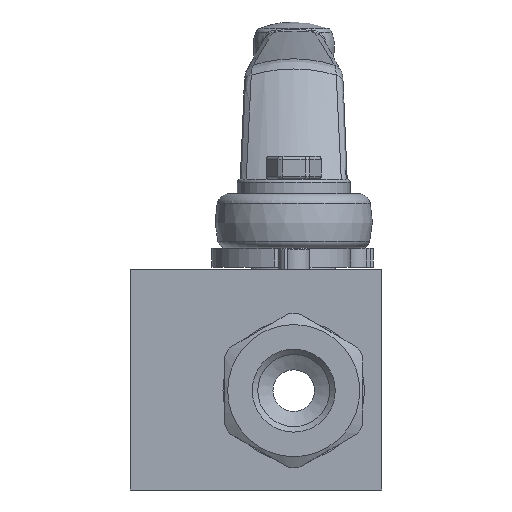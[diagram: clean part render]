
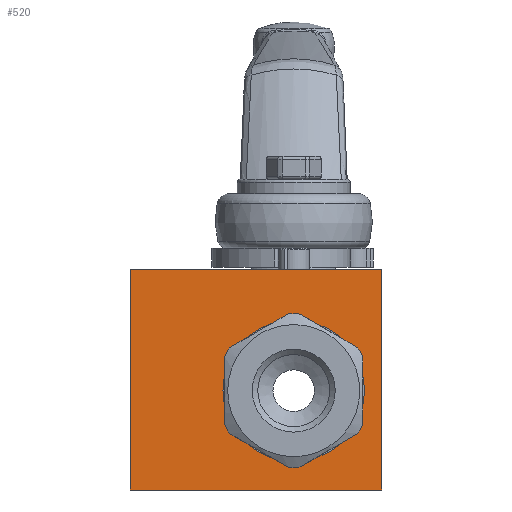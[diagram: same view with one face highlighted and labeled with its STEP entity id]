
A CAD part, front view. The second image highlights one B-rep face of the part: STEP entity #520.
In plain terms, the highlighted planar face has unit normal (0, -1, 0).
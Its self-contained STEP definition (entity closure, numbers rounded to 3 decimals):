
#520 = ADVANCED_FACE( '', ( #1230, #1231 ), #1232, .T. );
#1230 = FACE_BOUND( '', #2303, .T. );
#1231 = FACE_OUTER_BOUND( '', #2304, .T. );
#1232 = PLANE( '', #2305 );
#2303 = EDGE_LOOP( '', ( #4326 ) );
#2304 = EDGE_LOOP( '', ( #4327, #4328, #4329, #4330 ) );
#2305 = AXIS2_PLACEMENT_3D( '', #4331, #4332, #4333 );
#4326 = ORIENTED_EDGE( '', *, *, #6949, .F. );
#4327 = ORIENTED_EDGE( '', *, *, #6950, .T. );
#4328 = ORIENTED_EDGE( '', *, *, #6951, .T. );
#4329 = ORIENTED_EDGE( '', *, *, #6952, .T. );
#4330 = ORIENTED_EDGE( '', *, *, #6953, .T. );
#4331 = CARTESIAN_POINT( '', ( -26., -17.5, -15.8 ) );
#4332 = DIRECTION( '', ( 0., -1., 0. ) );
#4333 = DIRECTION( '', ( 0., 0., -1. ) );
#6949 = EDGE_CURVE( '', #8000, #8000, #8001, .T. );
#6950 = EDGE_CURVE( '', #8002, #8003, #8004, .T. );
#6951 = EDGE_CURVE( '', #8003, #8005, #8006, .T. );
#6952 = EDGE_CURVE( '', #8005, #8007, #8008, .T. );
#6953 = EDGE_CURVE( '', #8007, #8002, #8009, .T. );
#8000 = VERTEX_POINT( '', #9573 );
#8001 = CIRCLE( '', #9574, 11.25 );
#8002 = VERTEX_POINT( '', #9575 );
#8003 = VERTEX_POINT( '', #9576 );
#8004 = LINE( '', #9577, #9578 );
#8005 = VERTEX_POINT( '', #9579 );
#8006 = LINE( '', #9580, #9581 );
#8007 = VERTEX_POINT( '', #9582 );
#8008 = LINE( '', #9583, #9584 );
#8009 = LINE( '', #9585, #9586 );
#9573 = CARTESIAN_POINT( '', ( 11.25, -17.5, 0. ) );
#9574 = AXIS2_PLACEMENT_3D( '', #12856, #12857, #12858 );
#9575 = CARTESIAN_POINT( '', ( -26., -17.5, 19.2 ) );
#9576 = CARTESIAN_POINT( '', ( -26., -17.5, -15.8 ) );
#9577 = CARTESIAN_POINT( '', ( -26., -17.5, 19.2 ) );
#9578 = VECTOR( '', #12859, 1000. );
#9579 = CARTESIAN_POINT( '', ( 14., -17.5, -15.8 ) );
#9580 = CARTESIAN_POINT( '', ( -26., -17.5, -15.8 ) );
#9581 = VECTOR( '', #12860, 1000. );
#9582 = CARTESIAN_POINT( '', ( 14., -17.5, 19.2 ) );
#9583 = CARTESIAN_POINT( '', ( 14., -17.5, -15.8 ) );
#9584 = VECTOR( '', #12861, 1000. );
#9585 = CARTESIAN_POINT( '', ( 14., -17.5, 19.2 ) );
#9586 = VECTOR( '', #12862, 1000. );
#12856 = CARTESIAN_POINT( '', ( 0., -17.5, 0. ) );
#12857 = DIRECTION( '', ( 0., -1., 0. ) );
#12858 = DIRECTION( '', ( 1., 0., 0. ) );
#12859 = DIRECTION( '', ( 0., 0., -1. ) );
#12860 = DIRECTION( '', ( 1., 0., 0. ) );
#12861 = DIRECTION( '', ( 0., 0., 1. ) );
#12862 = DIRECTION( '', ( -1., 0., 0. ) );
